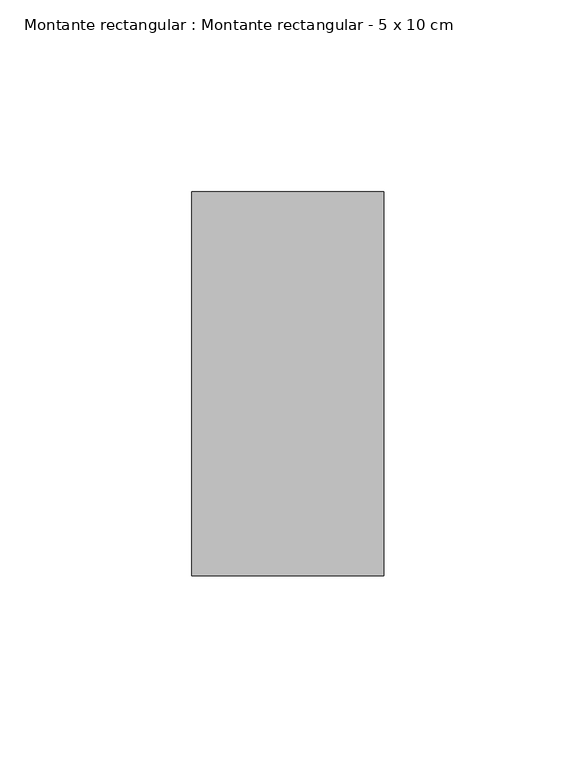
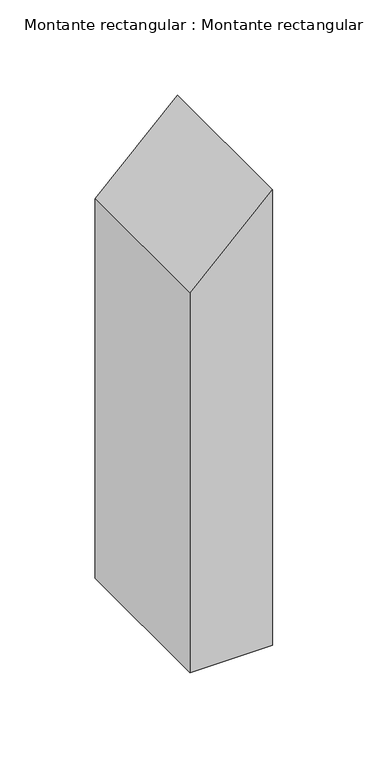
"""IFC4 building model written with IfcOpenShell, lengths in millimetres: member geometry, Montante rectangular : Montante rectangular - 5 x 10 cm."""

from ifc_helpers import new_model, si_unit, frame, origin, place, context, project, spatial, polyline, outline, extrude, source, transform, mapped, element, save


def montante_rectangular_montante_rectangular_5_x_10_cm_ab966814(model_context):
    return source(origin(), model_context, "Body", "SweptSolid", [
        extrude(outline(polyline([(0.0, 0.0), (-48.9249345, -50.0), (-292.1774067, -50.0), (-292.1774067, 0.0), (0.0, 0.0)])), frame((0.0, -50.0, 0.0), z_axis=(0.0, 1.0, 0.0), x_axis=(0.0, 0.0, 1.0)), (0.0, 0.0, 1.0), 100.0),
    ])


if __name__ == "__main__":
    model = new_model("IFC4")
    model_context = context("Model", 3, world=origin())
    ifc_project = project(units=[si_unit("LENGTHUNIT", "METRE", prefix="MILLI")], contexts=[model_context])
    site = spatial("IfcSite", under=ifc_project)
    building = spatial("IfcBuilding", under=site)
    placement = place(None, origin())
    montante_rectangular_montante_rectangular_5_x_10_cm_shape = montante_rectangular_montante_rectangular_5_x_10_cm_ab966814(model_context)
    element("IfcMember", 1, ObjectType="Montante rectangular : Montante rectangular - 5 x 10 cm", at=placement, inside=building, context=model_context, shape_type="MappedRepresentation", body=[
        mapped(montante_rectangular_montante_rectangular_5_x_10_cm_shape, transform((0.0, 0.0, 0.0), x_axis=(1.0, 0.0, 0.0), y_axis=(0.0, 1.0, 0.0), z_axis=(0.0, 0.0, 1.0))),
    ])
    save(model, "model.ifc")
